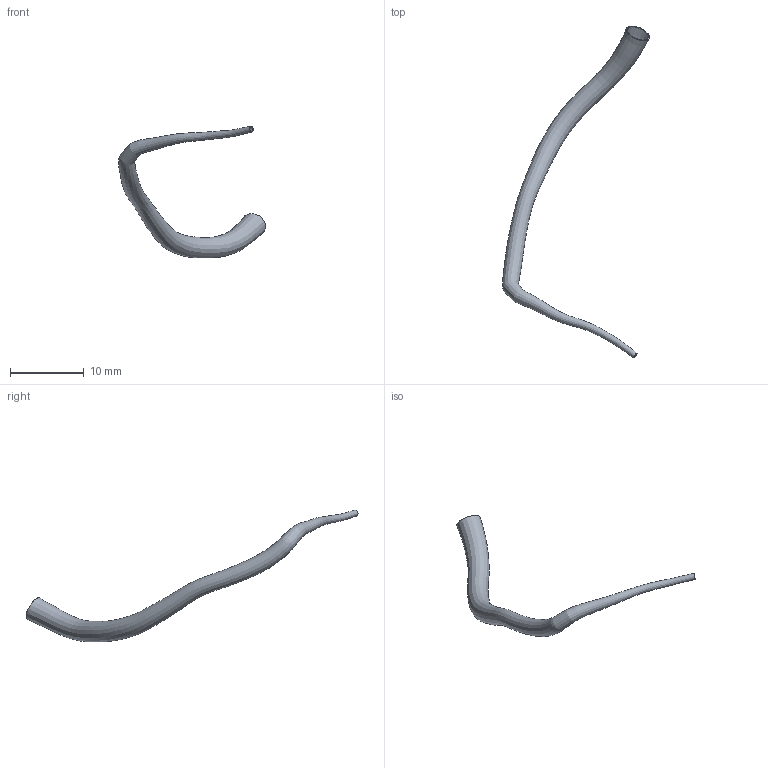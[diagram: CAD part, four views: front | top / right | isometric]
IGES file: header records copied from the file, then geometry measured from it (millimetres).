
Global section: file name: C:\Documents and Settings\Administrator\Desktop\FDA-Pig\Domestic LCA\Pig_000010\lcx.seg.es.igs; native system: Rhinoceros ( May 19 2006 ); preprocessor: Trout Lake IGES 012 May 19 2006; date: 111205.183823; units: centimetre
Bounding box: 19.97 x 45.11 x 17.91 mm (x, y, z)
Surface area: 841.3 mm2 (no closed solid volume)
Topology: 0 solids, 0 shells, 4 faces, 13 edges, 10 vertices
Faces by surface type: bspline 4
